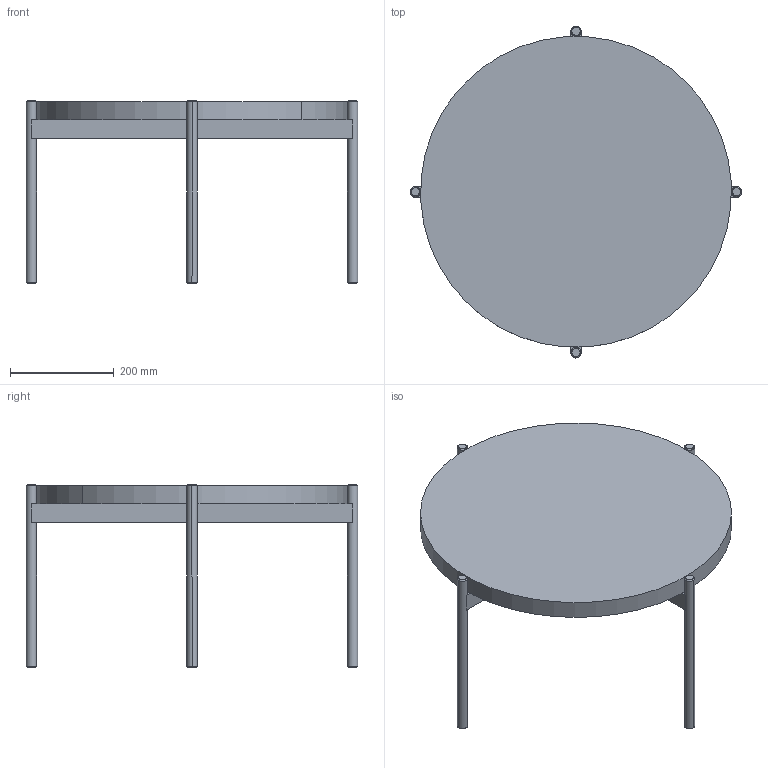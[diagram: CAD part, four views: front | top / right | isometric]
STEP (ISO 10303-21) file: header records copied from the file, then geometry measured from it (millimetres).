
FILE_DESCRIPTION(/* description */ (''),/* implementation_level */ '2;1');
FILE_NAME(/* name */ 'DARRS9~F',/* time_stamp */ '2022-08-18T08:03:40+02:00',/* author */ (''),/* organization */ (''),/* preprocessor_version */ 'ST-DEVELOPER v16.5',/* originating_system */ '',/* authorisation */ '');
FILE_SCHEMA (('AUTOMOTIVE_DESIGN'));
Length unit declared in the file: millimetre
Products named in the file (1): Document
Bounding box: 640 x 640 x 352 mm (x, y, z)
Volume: 11231468.3 mm3; surface area: 862027.4 mm2
Topology: 7 solids, 7 shells, 48 faces, 87 edges, 53 vertices
Faces by surface type: bspline 26, plane 22
Entity records: 1289 total; most frequent: CARTESIAN_POINT 626, ORIENTED_EDGE 172, EDGE_CURVE 86, VERTEX_POINT 52, ADVANCED_FACE 48, FACE_OUTER_BOUND 48, EDGE_LOOP 48, B_SPLINE_CURVE_WITH_KNOTS 44
